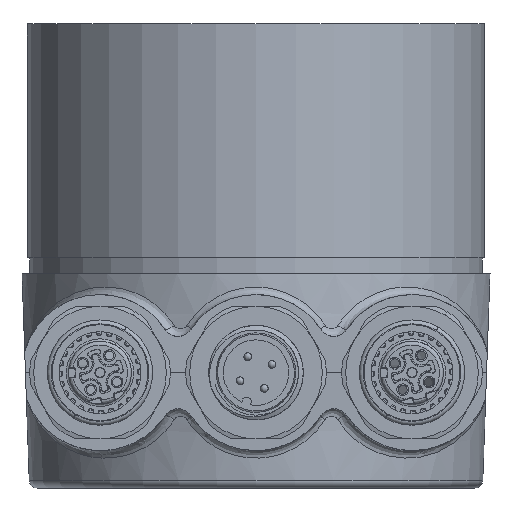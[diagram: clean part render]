
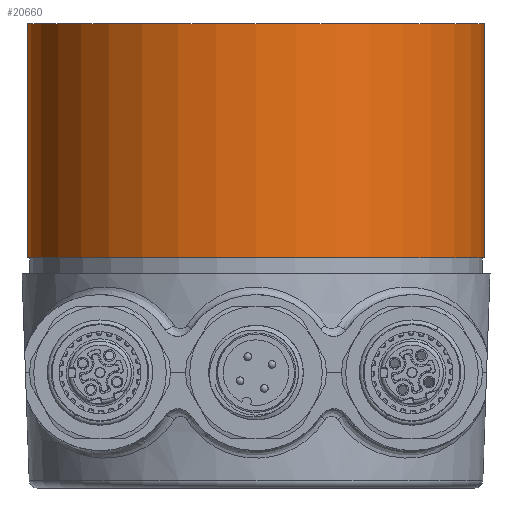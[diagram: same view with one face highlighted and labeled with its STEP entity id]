
A CAD part, front view. The second image highlights one B-rep face of the part: STEP entity #20660.
In plain terms, the highlighted cylindrical face has radius 29.3 mm (diameter 58.6 mm), a partial arc.
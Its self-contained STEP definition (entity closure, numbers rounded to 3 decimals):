
#20660 = ADVANCED_FACE ( 'NONE', ( #52344 ), #51925, .T. ) ;
#20665 = EDGE_LOOP ( 'NONE', ( #20743, #20712, #20763, #20783 ) ) ;
#20708 = VERTEX_POINT ( 'NONE', #52476 ) ;
#20712 = ORIENTED_EDGE ( 'NONE', *, *, #20725, .T. ) ;
#20725 = EDGE_CURVE ( 'NONE', #20708, #20728, #52451, .T. ) ;
#20728 = VERTEX_POINT ( 'NONE', #52511 ) ;
#20729 = VERTEX_POINT ( 'NONE', #52510 ) ;
#20730 = EDGE_CURVE ( 'NONE', #20708, #20729, #52507, .T. ) ;
#20743 = ORIENTED_EDGE ( 'NONE', *, *, #20730, .F. ) ;
#20748 = EDGE_CURVE ( 'NONE', #20729, #20791, #52548, .T. ) ;
#20763 = ORIENTED_EDGE ( 'NONE', *, *, #20765, .T. ) ;
#20765 = EDGE_CURVE ( 'NONE', #20728, #20791, #52579, .T. ) ;
#20783 = ORIENTED_EDGE ( 'NONE', *, *, #20748, .F. ) ;
#20791 = VERTEX_POINT ( 'NONE', #52559 ) ;
#51813 = CARTESIAN_POINT ( 'NONE',  ( 0., 0., 59.5 ) ) ;
#51848 = DIRECTION ( 'NONE',  ( 1., 0., 0. ) ) ;
#51853 = AXIS2_PLACEMENT_3D ( 'NONE', #51813, #51869, #51848 ) ;
#51869 = DIRECTION ( 'NONE',  ( 0., 0., -1. ) ) ;
#51925 = CYLINDRICAL_SURFACE ( 'NONE', #51853, 29.3 ) ;
#52344 = FACE_OUTER_BOUND ( 'NONE', #20665, .T. ) ;
#52451 = LINE ( 'NONE', #52514, #52513 ) ;
#52476 = CARTESIAN_POINT ( 'NONE',  ( -29.3, 0., 59.5 ) ) ;
#52503 = DIRECTION ( 'NONE',  ( -1., 0., 0. ) ) ;
#52504 = DIRECTION ( 'NONE',  ( 0., 0., 1. ) ) ;
#52505 = CARTESIAN_POINT ( 'NONE',  ( 0., 0., 59.5 ) ) ;
#52506 = AXIS2_PLACEMENT_3D ( 'NONE', #52505, #52504, #52503 ) ;
#52507 = CIRCLE ( 'NONE', #52506, 29.3 ) ;
#52510 = CARTESIAN_POINT ( 'NONE',  ( 29.3, 0., 59.5 ) ) ;
#52511 = CARTESIAN_POINT ( 'NONE',  ( -29.3, 0., 29.5 ) ) ;
#52512 = DIRECTION ( 'NONE',  ( 0., 0., -1. ) ) ;
#52513 = VECTOR ( 'NONE', #52512, 1000. ) ;
#52514 = CARTESIAN_POINT ( 'NONE',  ( -29.3, 0., 59.5 ) ) ;
#52545 = DIRECTION ( 'NONE',  ( 0., 0., -1. ) ) ;
#52546 = VECTOR ( 'NONE', #52545, 1000. ) ;
#52547 = CARTESIAN_POINT ( 'NONE',  ( 29.3, 0., 59.5 ) ) ;
#52548 = LINE ( 'NONE', #52547, #52546 ) ;
#52559 = CARTESIAN_POINT ( 'NONE',  ( 29.3, 0., 29.5 ) ) ;
#52575 = DIRECTION ( 'NONE',  ( -1., 0., 0. ) ) ;
#52576 = DIRECTION ( 'NONE',  ( 0., 0., 1. ) ) ;
#52578 = AXIS2_PLACEMENT_3D ( 'NONE', #52585, #52576, #52575 ) ;
#52579 = CIRCLE ( 'NONE', #52578, 29.3 ) ;
#52585 = CARTESIAN_POINT ( 'NONE',  ( 0., 0., 29.5 ) ) ;
